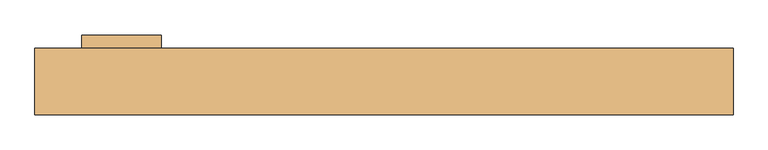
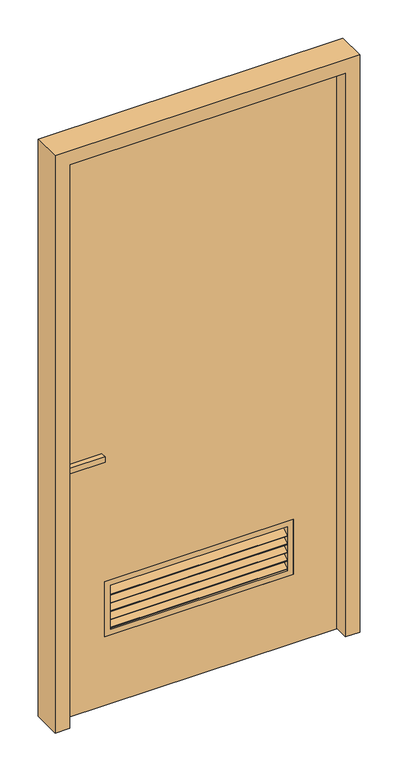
"""IFC4 building model written with IfcOpenShell, lengths in millimetres: door geometry, ARQ-PU-INT-90x210-Mad-C3 : ARQ-PU-INT-95x210-Mad."""

from ifc_helpers import new_model, si_unit, frame, origin, place, context, project, spatial, polyline, outline, extrude, source, transform, mapped, element, save


def door_720fac4b(model_context):
    return source(origin(), model_context, "Body", "SweptSolid", [
        extrude(outline(polyline([(2100.0, -525.0), (0.0, -525.0), (0.0, -475.0), (2050.0, -475.0), (2050.0, 475.0), (0.0, 475.0), (0.0, 525.0), (2100.0, 525.0), (2100.0, -525.0)])), frame((0.0, -50.0, 0.0), z_axis=(0.0, 1.0, 0.0), x_axis=(0.0, 0.0, 1.0)), (0.0, 0.0, 1.0), 100.0),
        extrude(outline(polyline([(0.0, 55.4154803), (610.0200372, 55.4154803), (610.0200372, 0.0), (0.0, 0.0), (0.0, 55.4154803)])), frame((305.0100186, 50.1127884, 421.6870193), z_axis=(0.0, -0.514495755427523, 0.8574929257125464), x_axis=(-1.0, 0.0, 0.0)), (0.0, 0.0, 1.0), 5.042619),
        extrude(outline(polyline([(0.0, 55.4154803), (610.0200372, 55.4154803), (610.0200372, 0.0), (0.0, 0.0), (0.0, 55.4154803)])), frame((305.0100186, 50.1127884, 391.6870193), z_axis=(0.0, -0.5144957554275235, 0.8574929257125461), x_axis=(-1.0, 0.0, 0.0)), (0.0, 0.0, 1.0), 5.042619),
        extrude(outline(polyline([(0.0, 55.4154803), (610.0200372, 55.4154803), (610.0200372, 0.0), (0.0, 0.0), (0.0, 55.4154803)])), frame((305.0100186, 50.1127884, 361.6870193), z_axis=(0.0, -0.514495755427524, 0.8574929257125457), x_axis=(-1.0, 0.0, 0.0)), (0.0, 0.0, 1.0), 5.042619),
        extrude(outline(polyline([(0.0, 55.4154803), (610.0200372, 55.4154803), (610.0200372, 0.0), (0.0, 0.0), (0.0, 55.4154803)])), frame((305.0100186, 50.1127884, 331.6870193), z_axis=(0.0, -0.5144957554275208, 0.8574929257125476), x_axis=(-1.0, 0.0, 0.0)), (0.0, 0.0, 1.0), 5.042619),
        extrude(outline(polyline([(0.0, 55.4154803), (610.0200372, 55.4154803), (610.0200372, 0.0), (0.0, 0.0), (0.0, 55.4154803)])), frame((305.0100186, 50.1127884, 301.6870193), z_axis=(0.0, -0.5144957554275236, 0.857492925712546), x_axis=(-1.0, 0.0, 0.0)), (0.0, 0.0, 1.0), 5.042619),
        extrude(outline(polyline([(450.0, 325.0100186), (450.0, -325.0100186), (250.0, -325.0100186), (250.0, 325.0100186), (450.0, 325.0100186)]), holes=[polyline([(430.0, 305.0100186), (270.0, 305.0100186), (270.0, -305.0100186), (430.0, -305.0100186), (430.0, 305.0100186)])]), frame((0.0, 0.0, 0.0), z_axis=(0.0, 1.0, 0.0), x_axis=(0.0, 0.0, 1.0)), (0.0, 0.0, 1.0), 50.0),
        extrude(outline(polyline([(-334.6774814, 70.0), (-334.6774814, 50.0), (-454.6774814, 50.0), (-454.6774814, 70.0), (-334.6774814, 70.0)])), frame((0.0, 0.0, 900.0), z_axis=(0.0, 0.0, 1.0), x_axis=(1.0, 0.0, 0.0)), (0.0, 0.0, 1.0), 20.0),
        extrude(outline(polyline([(-454.6774814, -20.0), (-454.6774814, 0.0), (-334.6774814, 0.0), (-334.6774814, -20.0), (-454.6774814, -20.0)])), frame((0.0, 0.0, 900.0), z_axis=(0.0, 0.0, 1.0), x_axis=(1.0, 0.0, 0.0)), (0.0, 0.0, 1.0), 20.0),
        extrude(outline(polyline([(2050.0, 475.0), (2050.0, -475.0), (0.0, -475.0), (0.0, 475.0), (2050.0, 475.0)]), holes=[polyline([(450.0, 325.0100186), (250.0, 325.0100186), (250.0, -325.0100186), (450.0, -325.0100186), (450.0, 325.0100186)])]), frame((0.0, 0.0, 0.0), z_axis=(0.0, 1.0, 0.0), x_axis=(0.0, 0.0, 1.0)), (0.0, 0.0, 1.0), 50.0),
    ])


if __name__ == "__main__":
    model = new_model("IFC4")
    model_context = context("Model", 3, world=origin())
    ifc_project = project(units=[si_unit("LENGTHUNIT", "METRE", prefix="MILLI")], contexts=[model_context])
    site = spatial("IfcSite", under=ifc_project)
    building = spatial("IfcBuilding", under=site)
    placement = place(None, origin())
    door_shape = door_720fac4b(model_context)
    element("IfcDoor", 1, ObjectType="ARQ-PU-INT-90x210-Mad-C3 : ARQ-PU-INT-95x210-Mad", at=placement, inside=building, context=model_context, shape_type="MappedRepresentation", body=[
        mapped(door_shape, transform((0.0, 0.0, 0.0), x_axis=(1.0, 0.0, 0.0), y_axis=(0.0, 1.0, 0.0), z_axis=(0.0, 0.0, 1.0))),
    ])
    save(model, "model.ifc")
